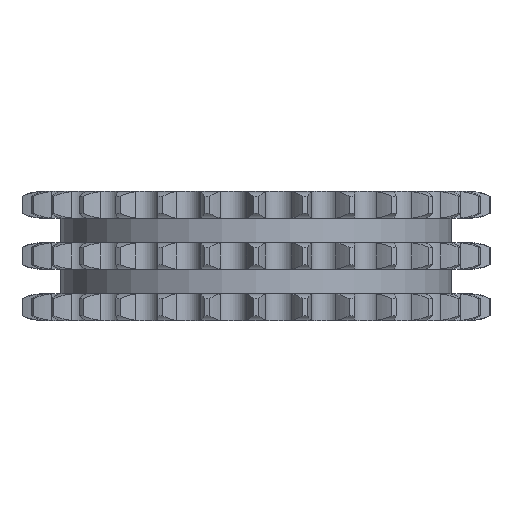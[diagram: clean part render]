
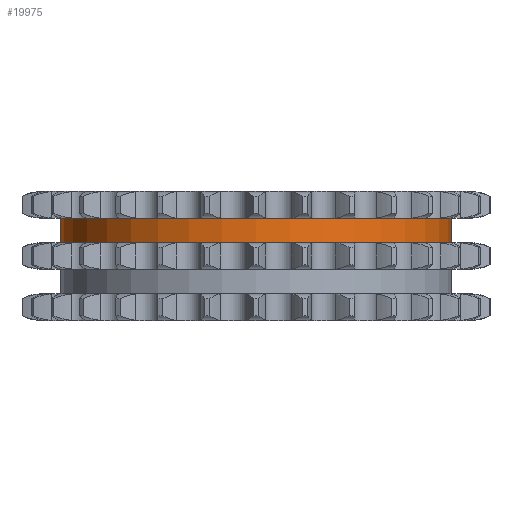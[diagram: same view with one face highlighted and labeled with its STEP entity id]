
A CAD part, left-side view. The second image highlights one B-rep face of the part: STEP entity #19975.
In plain terms, the highlighted cylindrical face has radius 52.749 mm (diameter 105.498 mm), a partial arc.
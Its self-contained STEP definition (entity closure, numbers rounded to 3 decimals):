
#4007=DIRECTION('',(0.,0.,-1.));
#4008=VECTOR('',#4007,6.65);
#4009=CARTESIAN_POINT('',(0.,52.749,10.25));
#4010=LINE('',#4009,#4008);
#4014=CARTESIAN_POINT('',(0.,0.,10.25));
#4015=DIRECTION('',(0.,0.,1.));
#4016=DIRECTION('',(0.,1.,0.));
#4017=AXIS2_PLACEMENT_3D('',#4014,#4015,#4016);
#4022=DIRECTION('',(0.,0.,-1.));
#4023=VECTOR('',#4022,6.65);
#4024=CARTESIAN_POINT('',(0.,-52.749,10.25));
#4025=LINE('',#4024,#4023);
#4029=CARTESIAN_POINT('',(0.,0.,3.6));
#4030=DIRECTION('',(0.,0.,1.));
#4031=DIRECTION('',(0.,1.,0.));
#4032=AXIS2_PLACEMENT_3D('',#4029,#4030,#4031);
#15974=CARTESIAN_POINT('',(0.,52.749,10.25));
#15975=CARTESIAN_POINT('',(0.,52.749,3.6));
#15976=VERTEX_POINT('',#15974);
#15977=VERTEX_POINT('',#15975);
#15978=CARTESIAN_POINT('',(0.,-52.749,10.25));
#15979=CARTESIAN_POINT('',(0.,-52.749,3.6));
#15980=VERTEX_POINT('',#15978);
#15981=VERTEX_POINT('',#15979);
#19963=CARTESIAN_POINT('',(0.,0.,11.275));
#19964=DIRECTION('',(0.,0.,-1.));
#19965=DIRECTION('',(0.,-1.,0.));
#19966=AXIS2_PLACEMENT_3D('',#19963,#19964,#19965);
#19967=CYLINDRICAL_SURFACE('',#19966,52.749);
#19968=ORIENTED_EDGE('',*,*,#19953,.F.);
#19969=ORIENTED_EDGE('',*,*,#19943,.T.);
#19970=ORIENTED_EDGE('',*,*,#19957,.T.);
#19972=ORIENTED_EDGE('',*,*,#19971,.F.);
#19973=EDGE_LOOP('',(#19968,#19969,#19970,#19972));
#19974=FACE_OUTER_BOUND('',#19973,.F.);
#19975=ADVANCED_FACE('',(#19974),#19967,.T.);
#4018=CIRCLE('',#4017,52.749);
#4033=CIRCLE('',#4032,52.749);
#19943=EDGE_CURVE('',#15976,#15980,#4018,.T.);
#19953=EDGE_CURVE('',#15976,#15977,#4010,.T.);
#19957=EDGE_CURVE('',#15980,#15981,#4025,.T.);
#19971=EDGE_CURVE('',#15977,#15981,#4033,.T.);
